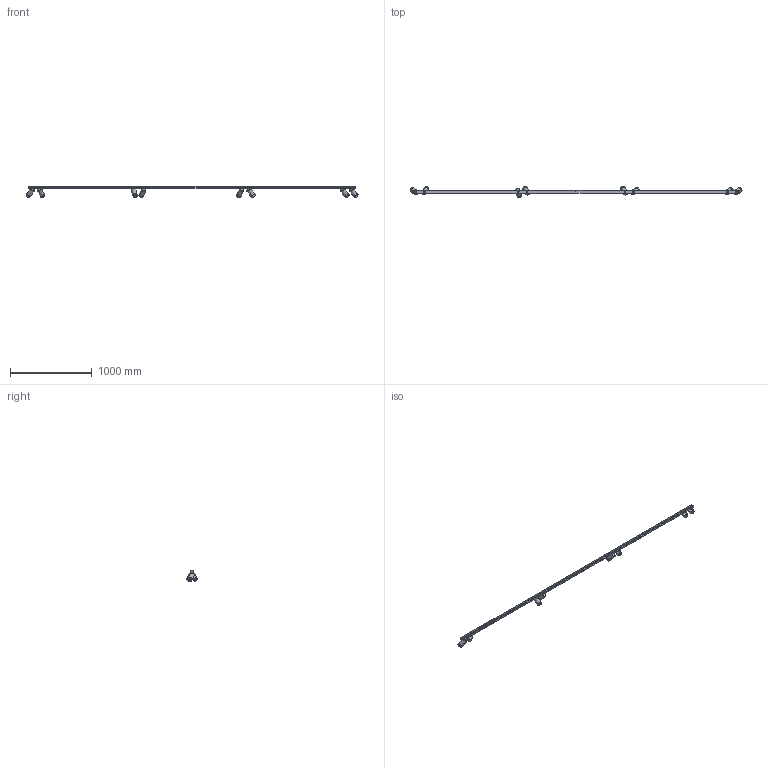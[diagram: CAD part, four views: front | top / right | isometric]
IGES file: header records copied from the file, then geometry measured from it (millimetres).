
Start section: SolidWorks IGES file using NURBS representation for surfaces
Global section: file name: Z:\Modele 3D_WWW\_KOLEKCJE_WWW\MONO\MONO-CORNER\7696\MONO-VIII-2X200-GOLD-7696.IGS; native system: SolidWorks 2021; preprocessor: SolidWorks 2021; author: gabriela.tworek; date: 220119.145818; units: millimetre
Bounding box: 4071.7 x 137.6 x 135.98 mm (x, y, z)
Surface area: 1058150.2 mm2 (no closed solid volume)
Topology: 0 solids, 0 shells, 452 faces, 2640 edges, 2552 vertices
Faces by surface type: bspline 452
